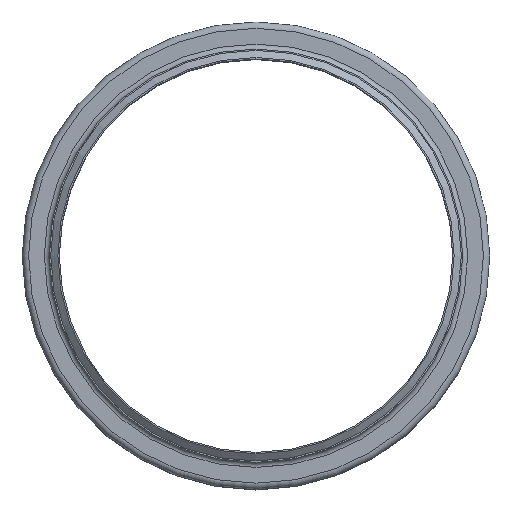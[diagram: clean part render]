
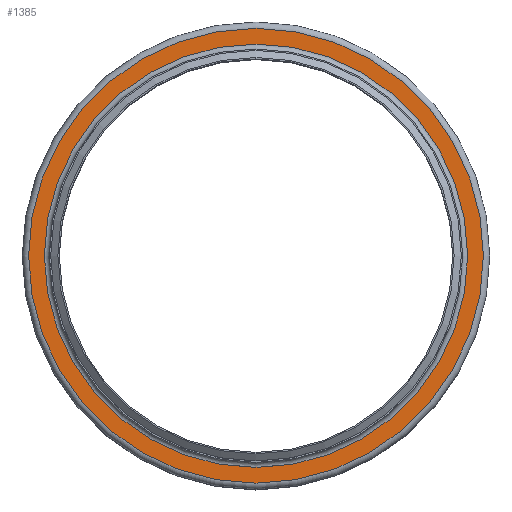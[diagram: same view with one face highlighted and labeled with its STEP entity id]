
A CAD part, top view. The second image highlights one B-rep face of the part: STEP entity #1385.
In plain terms, the highlighted planar face has unit normal (0, 0, 1).
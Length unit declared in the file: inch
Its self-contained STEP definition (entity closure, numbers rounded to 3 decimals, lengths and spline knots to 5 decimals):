
#155=FACE_BOUND('',#416,.T.);
#256=FACE_OUTER_BOUND('',#415,.T.);
#415=EDGE_LOOP('',(#1168));
#416=EDGE_LOOP('',(#1169));
#584=CIRCLE('',#1684,9.28);
#585=CIRCLE('',#1686,9.97);
#703=VERTEX_POINT('',#2631);
#704=VERTEX_POINT('',#2635);
#862=EDGE_CURVE('',#703,#703,#584,.T.);
#863=EDGE_CURVE('',#704,#704,#585,.T.);
#1168=ORIENTED_EDGE('',*,*,#863,.F.);
#1169=ORIENTED_EDGE('',*,*,#862,.T.);
#1284=PLANE('',#1685);
#1385=ADVANCED_FACE('',(#256,#155),#1284,.T.);
#1684=AXIS2_PLACEMENT_3D('',#2633,#2197,#2198);
#1685=AXIS2_PLACEMENT_3D('',#2634,#2199,#2200);
#1686=AXIS2_PLACEMENT_3D('',#2636,#2201,#2202);
#2197=DIRECTION('center_axis',(0.,0.,-1.));
#2198=DIRECTION('ref_axis',(1.,0.,0.));
#2199=DIRECTION('center_axis',(0.,0.,1.));
#2200=DIRECTION('ref_axis',(1.,0.,0.));
#2201=DIRECTION('center_axis',(0.,0.,-1.));
#2202=DIRECTION('ref_axis',(1.,0.,0.));
#2631=CARTESIAN_POINT('',(9.28,0.,-0.22));
#2633=CARTESIAN_POINT('Origin',(0.,0.,-0.22));
#2634=CARTESIAN_POINT('Origin',(0.,9.97,-0.22));
#2635=CARTESIAN_POINT('',(9.97,0.,-0.22));
#2636=CARTESIAN_POINT('Origin',(0.,0.,-0.22));
